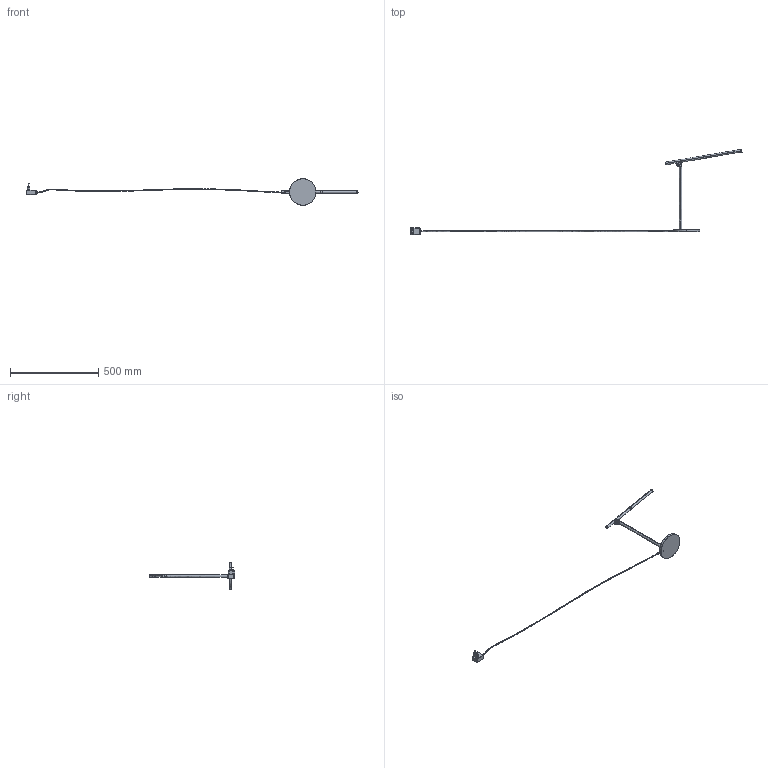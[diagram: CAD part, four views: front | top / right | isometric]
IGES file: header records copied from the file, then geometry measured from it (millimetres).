
Start section: SolidWorks IGES file using analytic representation for surfaces
Global section: file name: F:\GABRYSIA\MODELE 3D\SMART-LED-8358-WWW\SMART-LED-8358.IGS; native system: SolidWorks 2017; preprocessor: SolidWorks 2017; author: Togambi; date: 200907.095704; units: millimetre
Bounding box: 1884.3 x 484.48 x 150 mm (x, y, z)
Surface area: 160317.9 mm2 (no closed solid volume)
Topology: 0 solids, 0 shells, 186 faces, 3088 edges, 3088 vertices
Faces by surface type: bspline 113, revolution 73
